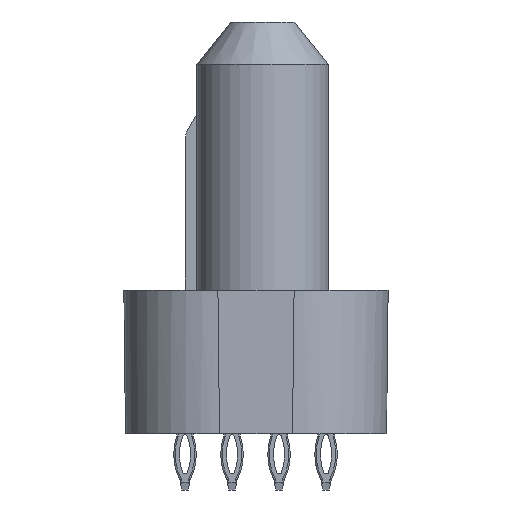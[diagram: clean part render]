
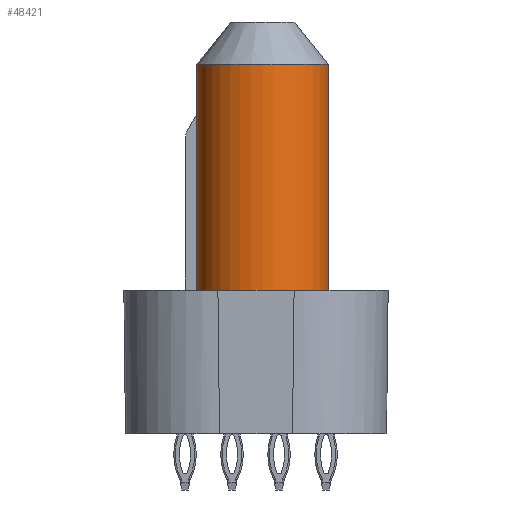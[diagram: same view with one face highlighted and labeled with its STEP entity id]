
A CAD part, left-side view. The second image highlights one B-rep face of the part: STEP entity #48421.
In plain terms, the highlighted cylindrical face has radius 3.5 mm (diameter 7 mm), a partial arc.
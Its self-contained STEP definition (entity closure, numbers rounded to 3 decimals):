
#37764=CYLINDRICAL_SURFACE('',#128875,3.5);
#41828=CIRCLE('',#128871,3.5);
#41829=CIRCLE('',#128874,3.5);
#48421=ADVANCED_FACE('',(#55515),#37764,.T.);
#55515=FACE_OUTER_BOUND('',#60839,.T.);
#60839=EDGE_LOOP('',(#68417,#68418,#68419,#68420));
#68417=ORIENTED_EDGE('',*,*,#103996,.F.);
#68418=ORIENTED_EDGE('',*,*,#103997,.T.);
#68419=ORIENTED_EDGE('',*,*,#103990,.F.);
#68420=ORIENTED_EDGE('',*,*,#103986,.T.);
#95329=VERTEX_POINT('',#178266);
#95330=VERTEX_POINT('',#178267);
#95333=VERTEX_POINT('',#178275);
#95338=VERTEX_POINT('',#178287);
#103986=EDGE_CURVE('',#95329,#95330,#41828,.T.);
#103990=EDGE_CURVE('',#95329,#95333,#117290,.T.);
#103996=EDGE_CURVE('',#95338,#95330,#117296,.T.);
#103997=EDGE_CURVE('',#95338,#95333,#41829,.T.);
#117290=LINE('',#178274,#123471);
#117296=LINE('',#178286,#123477);
#123471=VECTOR('',#142850,1.);
#123477=VECTOR('',#142858,1.);
#128871=AXIS2_PLACEMENT_3D('',#178265,#142843,#142844);
#128874=AXIS2_PLACEMENT_3D('',#178288,#142859,#142860);
#128875=AXIS2_PLACEMENT_3D('',#178289,#142861,#142862);
#142843=DIRECTION('',(0.,0.,1.));
#142844=DIRECTION('',(0.,-1.,0.));
#142850=DIRECTION('',(0.,0.,1.));
#142858=DIRECTION('',(0.,0.,-1.));
#142859=DIRECTION('',(0.,0.,-1.));
#142860=DIRECTION('',(0.,-1.,0.));
#142861=DIRECTION('',(0.,0.,1.));
#142862=DIRECTION('',(1.,0.,0.));
#178265=CARTESIAN_POINT('',(-36.63,-0.355,7.63));
#178266=CARTESIAN_POINT('',(-36.63,3.145,7.63));
#178267=CARTESIAN_POINT('',(-36.63,-3.855,7.63));
#178274=CARTESIAN_POINT('',(-36.63,3.145,8.63));
#178275=CARTESIAN_POINT('',(-36.63,3.145,19.63));
#178286=CARTESIAN_POINT('',(-36.63,-3.855,19.38));
#178287=CARTESIAN_POINT('',(-36.63,-3.855,19.63));
#178288=CARTESIAN_POINT('',(-36.63,-0.355,19.63));
#178289=CARTESIAN_POINT('',(-36.63,-0.355,7.63));
